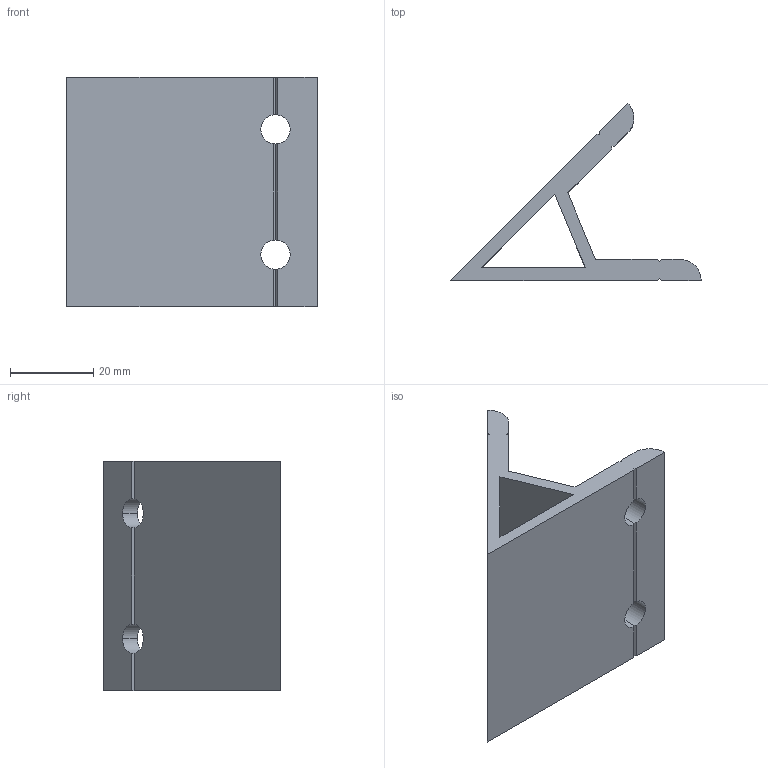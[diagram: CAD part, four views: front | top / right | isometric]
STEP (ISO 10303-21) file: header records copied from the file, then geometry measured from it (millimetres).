
FILE_DESCRIPTION (( 'STEP AP203' ), '1' );
FILE_NAME ('WA5545-6.STEP', '2024-02-17T07:31:15', ( '' ), ( '' ), 'SwSTEP 2.0', 'SolidWorks 2022', '' );
FILE_SCHEMA (( 'CONFIG_CONTROL_DESIGN' ));
Length unit declared in the file: millimetre
Products named in the file (1): WA5545-6
Bounding box: 60 x 42.43 x 55 mm (x, y, z)
Volume: 26049.6 mm3; surface area: 15625.2 mm2
Topology: 1 solids, 1 shells, 48 faces, 154 edges, 100 vertices
Faces by surface type: plane 38, cylinder 10
Entity records: 1779 total; most frequent: CARTESIAN_POINT 399, ORIENTED_EDGE 308, DIRECTION 248, EDGE_CURVE 154, VERTEX_POINT 100, LINE 94, VECTOR 94, AXIS2_PLACEMENT_3D 77
